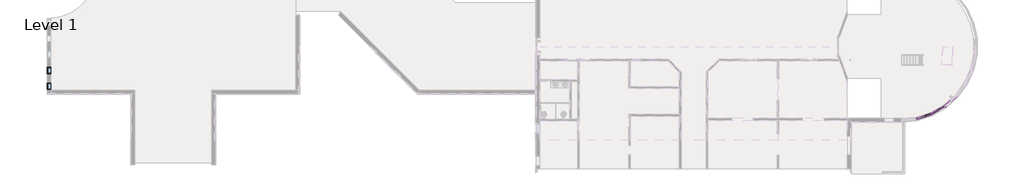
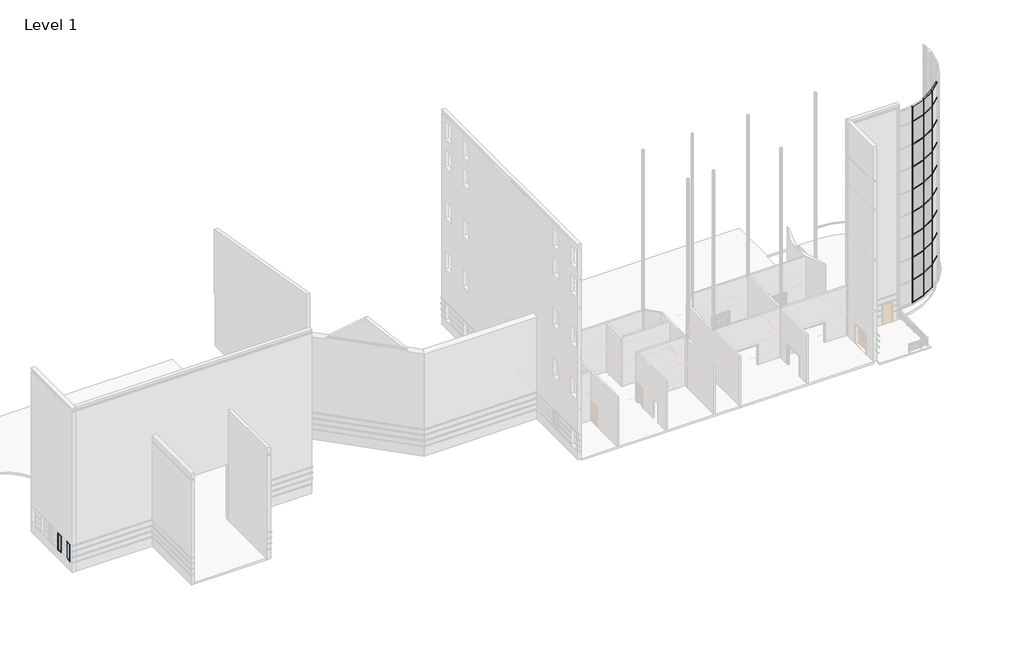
# One storey, part 4 of 16: 50 members, 18 plates, 2 windows.
"""IFC4 building model written with IfcOpenShell, lengths in millimetres."""

import ifcopenshell
import ifcopenshell.guid

model = None  # the IFC model being written
_history = None  # IfcOwnerHistory: only IFC2X3 demands one
_inside = {}  # id of a spatial element -> (the spatial element, [elements in it])
_under = {}  # id of a project, library or spatial element -> (it, [spatial elements below it])
_declared = {}  # id of a project -> (the project, [libraries it declares])
_typed = {}  # id of a type object -> (the type object, [elements of that type])
_made_of = {}  # id of a material, layer set ... -> (it, [elements and type objects made of it])


def new_model(schema):
    """Start an empty IFC model of exactly this schema.

    Asked for "IFC4X3", IfcOpenShell would pick the latest addendum, in which some entities
    have other attributes; the version numbers below select the first issue.
    IFC2X3 requires an IfcOwnerHistory on every rooted entity: one is made here for all.
    """
    global model, _history
    if schema == "IFC4X3":
        model = ifcopenshell.file(schema_version=(4, 3, 0, 0))
    else:
        model = ifcopenshell.file(schema=schema)
    _inside.clear()
    _under.clear()
    _declared.clear()
    _typed.clear()
    _made_of.clear()
    _history = None
    if model.schema == "IFC2X3":
        org = make("IfcOrganization", Name="unknown")
        user = make(
            "IfcPersonAndOrganization",
            ThePerson=make("IfcPerson", FamilyName="unknown"),
            TheOrganization=org,
        )
        app = make(
            "IfcApplication",
            ApplicationDeveloper=org,
            Version="unknown",
            ApplicationFullName="unknown",
            ApplicationIdentifier="unknown",
        )
        _history = make(
            "IfcOwnerHistory",
            OwningUser=user,
            OwningApplication=app,
            ChangeAction="ADDED",
            CreationDate=0,
        )
    return model


def make(cls, **values):
    """One entity of the class cls with the attributes given. An attribute that is None is left unset."""
    return model.create_entity(
        cls, **{name: value for name, value in values.items() if value is not None}
    )


def rooted(cls, **values):
    """An entity with a GlobalId (a new one), such as an element, a storey or a relation."""
    return make(cls, GlobalId=ifcopenshell.guid.new(), OwnerHistory=_history, **values)


def si_unit(unit_type, name, prefix=None):
    """IfcSIUnit, for example si_unit("LENGTHUNIT", "METRE", prefix="MILLI")."""
    return make("IfcSIUnit", UnitType=unit_type, Prefix=prefix, Name=name)


def assignment(units):
    """IfcUnitAssignment: the units of a project."""
    return None if units is None else make("IfcUnitAssignment", Units=units)


def point(xyz):
    """IfcCartesianPoint."""
    return None if xyz is None else make("IfcCartesianPoint", Coordinates=xyz)


def direction(xyz):
    """IfcDirection."""
    return None if xyz is None else make("IfcDirection", DirectionRatios=xyz)


def frame(location, z_axis=None, x_axis=None):
    """IfcAxis2Placement3D, a coordinate frame: its origin and axes. An axis left out is left unset."""
    return make(
        "IfcAxis2Placement3D",
        Location=point(location),
        Axis=direction(z_axis),
        RefDirection=direction(x_axis),
    )


def origin():
    """The frame at (0, 0, 0) with its axes left unset."""
    return frame((0.0, 0.0, 0.0))


def origin_with_axes():
    """The frame at (0, 0, 0) with the z axis (0, 0, 1) and the x axis (1, 0, 0) written out."""
    return frame((0.0, 0.0, 0.0), z_axis=(0.0, 0.0, 1.0), x_axis=(1.0, 0.0, 0.0))


def place(relative_to, where):
    """IfcLocalPlacement: puts the frame where relative to a parent placement (None: the world)."""
    return make(
        "IfcLocalPlacement", PlacementRelTo=relative_to, RelativePlacement=where
    )


def context(
    kind, dimensions, precision=None, world=None, true_north=None, identifier=None
):
    """IfcGeometricRepresentationContext, for example the 3D "Model" context."""
    return make(
        "IfcGeometricRepresentationContext",
        ContextIdentifier=identifier,
        ContextType=kind,
        CoordinateSpaceDimension=dimensions,
        Precision=precision,
        WorldCoordinateSystem=world,
        TrueNorth=true_north,
    )


def project(units=None, contexts=None):
    """IfcProject with its units and contexts."""
    return rooted(
        "IfcProject",
        Name="project",
        RepresentationContexts=contexts,
        UnitsInContext=assignment(units),
    )


def spatial(cls, under=None, at=None, **own):
    """A site, building, storey or space (cls), placed at a placement, below another one or the project."""
    s = rooted(cls, ObjectPlacement=at, **own)
    if under is not None:
        _under.setdefault(under.id(), (under, []))[1].append(s)
    return s


def polyline(points):
    """IfcPolyline through the points."""
    return make("IfcPolyline", Points=[point(p) for p in points])


def outline(outer, holes=None, kind="AREA"):
    """IfcArbitraryClosedProfileDef: a profile drawn as a closed curve; with holes, ...WithVoids."""
    if holes is None:
        return make("IfcArbitraryClosedProfileDef", ProfileType=kind, OuterCurve=outer)
    return make(
        "IfcArbitraryProfileDefWithVoids",
        ProfileType=kind,
        OuterCurve=outer,
        InnerCurves=holes,
    )


def extrude(swept, where, along, depth):
    """IfcExtrudedAreaSolid: the profile swept, set in the frame where, extruded along a direction by depth."""
    return make(
        "IfcExtrudedAreaSolid",
        SweptArea=swept,
        Position=where,
        ExtrudedDirection=direction(along),
        Depth=depth,
    )


def faces_of(points, faces, orient=None, outer=None):
    """IfcFace entities. A face is a list of loops; a loop is a list of indices into points, from 0.

    orient and outer hold one flag for each loop. By default every Orientation is true, the
    first loop of a face is its IfcFaceOuterBound and the others are IfcFaceBound.
    """
    made = []
    for i, loops in enumerate(faces):
        bounds = []
        for j, loop in enumerate(loops):
            is_outer = j == 0 if outer is None else outer[i][j]
            bounds.append(
                make(
                    "IfcFaceOuterBound" if is_outer else "IfcFaceBound",
                    Bound=make("IfcPolyLoop", Polygon=[points[k] for k in loop]),
                    Orientation=True if orient is None else orient[i][j],
                )
            )
        made.append(make("IfcFace", Bounds=bounds))
    return made


def faceted_brep(points, faces, orient=None, outer=None, voids=None):
    """IfcFacetedBrep: a solid bounded by flat faces; with voids (closed shells), ...WithVoids."""
    shared = [point(p) for p in points]
    hull = make("IfcClosedShell", CfsFaces=faces_of(shared, faces, orient, outer))
    if voids is None:
        return make("IfcFacetedBrep", Outer=hull)
    return make(
        "IfcFacetedBrepWithVoids",
        Outer=hull,
        Voids=[
            make(cls, CfsFaces=faces_of(shared, fs, o, b)) for cls, fs, o, b in voids
        ],
    )


def shape(context_of_items, identifier, shape_type, items):
    """IfcShapeRepresentation: the items that make up one representation, for example the "Body"."""
    return make(
        "IfcShapeRepresentation",
        ContextOfItems=context_of_items,
        RepresentationIdentifier=identifier,
        RepresentationType=shape_type,
        Items=items,
    )


def source(mapping_origin, context_of_items, identifier, shape_type, items):
    """IfcRepresentationMap: a shape defined once, which mapped items show again and again."""
    return make(
        "IfcRepresentationMap",
        MappingOrigin=mapping_origin,
        MappedRepresentation=shape(context_of_items, identifier, shape_type, items),
    )


def transform(
    local_origin,
    x_axis=None,
    y_axis=None,
    z_axis=None,
    scale=None,
    scale2=None,
    scale3=None,
    uniform=True,
):
    """IfcCartesianTransformationOperator3D, or its non-uniform kind. x_axis, y_axis, z_axis: its Axis1, 2, 3."""
    if uniform:
        return make(
            "IfcCartesianTransformationOperator3D",
            Axis1=direction(x_axis),
            Axis2=direction(y_axis),
            LocalOrigin=point(local_origin),
            Scale=scale,
            Axis3=direction(z_axis),
        )
    return make(
        "IfcCartesianTransformationOperator3DnonUniform",
        Axis1=direction(x_axis),
        Axis2=direction(y_axis),
        LocalOrigin=point(local_origin),
        Scale=scale,
        Axis3=direction(z_axis),
        Scale2=scale2,
        Scale3=scale3,
    )


def mapped(mapping_source, mapping_target):
    """IfcMappedItem: shows the shape of a source again, moved by a transform."""
    return make(
        "IfcMappedItem", MappingSource=mapping_source, MappingTarget=mapping_target
    )


def made_of(thing, what):
    """Note that an element or type object is made of a material, layer set ...; save() writes the relation."""
    if what is not None:
        _made_of.setdefault(what.id(), (what, []))[1].append(thing)
    return thing


def element(
    cls,
    number,
    at=None,
    inside=None,
    cuts=None,
    type_object=None,
    material=None,
    context=None,
    identifier="Body",
    shape_type=None,
    held_by="IfcProductDefinitionShape",
    body=None,
    shapes=None,
    **own,
):
    """One element of the class cls, such as IfcWall. Its Tag is "e" and its number.

    at: its placement. inside: the storey or other place that contains it. cuts: it is an
    opening in that element (IfcRelVoidsElement). A single representation is given by context,
    identifier, shape_type and body (its items); several are given by shapes. held_by: the class
    of the entity that holds the representations. save() writes the other relations.
    """
    e = rooted(cls, Tag="e%d" % number, ObjectPlacement=at, **own)
    if body is not None:
        shapes = [shape(context, identifier, shape_type, body)]
    if shapes is not None:
        e.Representation = make(held_by, Representations=shapes)
    if inside is not None:
        _inside.setdefault(inside.id(), (inside, []))[1].append(e)
    if cuts is not None:
        rooted(
            "IfcRelVoidsElement", RelatingBuildingElement=cuts, RelatedOpeningElement=e
        )
    if type_object is not None:
        _typed.setdefault(type_object.id(), (type_object, []))[1].append(e)
    return made_of(e, material)


def aggregate(whole, parts):
    """IfcRelAggregates: a whole, such as a stair, and the parts it consists of."""
    return rooted("IfcRelAggregates", RelatingObject=whole, RelatedObjects=parts)


def save(model, path):
    """Write the relations noted so far, then the file.

    IfcRelAggregates (storeys below a building ...), IfcRelContainedInSpatialStructure (elements
    in a storey), IfcRelDefinesByType, IfcRelAssociatesMaterial and IfcRelDeclares: one each for
    every whole, place, type object, material and project.
    """
    for whole, parts in _under.values():
        aggregate(whole, parts)
    for where, things in _inside.values():
        rooted(
            "IfcRelContainedInSpatialStructure",
            RelatedElements=things,
            RelatingStructure=where,
        )
    for kind, things in _typed.values():
        rooted("IfcRelDefinesByType", RelatedObjects=things, RelatingType=kind)
    for what, things in _made_of.values():
        rooted("IfcRelAssociatesMaterial", RelatedObjects=things, RelatingMaterial=what)
    for by, libraries in _declared.values():
        rooted("IfcRelDeclares", RelatingContext=by, RelatedDefinitions=libraries)
    model.write(path)


def member_45463520(model_context):
    return source(origin(), model_context, "Body", "SweptSolid", [
        extrude(outline(polyline([(-63.5, 6.4992311), (59.8333616, -6.4636276), (63.5, 28.422106), (63.5, -1457.3768913), (59.8333616, -1422.4911577), (-63.5, -1435.4540164), (-63.5, 6.4992311)])), frame((-63.5, 0.0, 0.0), z_axis=(1.0, 0.0, 0.0), x_axis=(0.0, 1.0, 0.0)), (0.0, 0.0, 1.0), 63.5),
    ])


def member_1666ebf7(model_context):
    return source(origin(), model_context, "Body", "Brep", [
        faceted_brep([(-31.75, 63.5, 28.422106), (0.0, 63.5, 28.422106), (31.75, 63.5, 28.422106), (31.75, 63.5, -1457.3768913), (0.0, 63.5, -1457.3768913), (-31.75, 63.5, -1457.3768913), (-31.75, -63.5, 6.4992311), (-31.75, 59.8333616, -6.4636276), (-31.75, 59.8333616, -1422.4911577), (-31.75, -63.5, -1435.4540164), (31.75, -63.5, 6.4992311), (0.0, -63.5, 6.4992311), (0.0, -63.5, -1435.4540164), (31.75, -63.5, -1435.4540164), (31.75, 59.8333616, -6.4636276), (31.75, 59.8333616, -1422.4911577), (0.0, 59.8333616, -6.4636276), (0.0, 59.8333616, -1422.4911577)], [[[0, 1, 2, 3, 4, 5]], [[6, 7, 0, 5, 8, 9]], [[10, 11, 6, 9, 12, 13]], [[2, 14, 10, 13, 15, 3]], [[2, 1, 16, 14]], [[1, 0, 7, 16]], [[7, 6, 11, 16]], [[11, 10, 14, 16]], [[3, 15, 17, 4]], [[15, 13, 12, 17]], [[12, 9, 8, 17]], [[8, 5, 4, 17]]]),
    ])


def member_f0fea5a5(model_context):
    return source(origin(), model_context, "Body", "SweptSolid", [
        extrude(outline(polyline([(31.75, 63.5), (31.75, -63.5), (-31.75, -63.5), (-31.75, 63.5), (31.75, 63.5)])), frame((0.0, 0.0, -2438.4), z_axis=(0.0, 0.0, 1.0), x_axis=(1.0, 0.0, 0.0)), (0.0, 0.0, 1.0), 2438.4),
    ])


def member_788d4f16(model_context):
    return source(origin(), model_context, "Body", "SweptSolid", [
        extrude(outline(polyline([(31.75, 63.5), (31.75, -63.5), (-31.75, -63.5), (-31.75, 63.5), (31.75, 63.5)])), frame((0.0, 0.0, -1651.0), z_axis=(0.0, 0.0, 1.0), x_axis=(1.0, 0.0, 0.0)), (0.0, 0.0, 1.0), 1651.0),
    ])


def system_panel_glazed_294e175a(model_context):
    return source(origin(), model_context, "Body", "SweptSolid", [
        extrude(outline(polyline([(714.4773927, 19.05), (-714.4773927, 19.05), (-714.4773927, 44.45), (714.4773927, 44.45), (714.4773927, 19.05)])), origin_with_axes(), (0.0, 0.0, 1.0), 2343.15),
    ])


def system_panel_glazed_36605c35(model_context):
    return source(origin(), model_context, "Body", "SweptSolid", [
        extrude(outline(polyline([(714.4773927, 19.05), (-714.4773927, 19.05), (-714.4773927, 44.45), (714.4773927, 44.45), (714.4773927, 19.05)])), origin_with_axes(), (0.0, 0.0, 1.0), 2374.9),
    ])


def system_panel_glazed_41a16be2(model_context):
    return source(origin(), model_context, "Body", "SweptSolid", [
        extrude(outline(polyline([(714.4773927, 19.05), (-714.4773927, 19.05), (-714.4773927, 44.45), (714.4773927, 44.45), (714.4773927, 19.05)])), origin_with_axes(), (0.0, 0.0, 1.0), 1555.75),
    ])


def window_ff99b6fa(model_context):
    return source(origin(), model_context, "Body", "SweptSolid", [
        extrude(outline(polyline([(203.2, -128.5875), (203.2, -141.2875), (-279.4, -141.2875), (-279.4, -128.5875), (203.2, -128.5875)])), frame((0.0, 0.0, 368.3), z_axis=(0.0, 0.0, 1.0), x_axis=(1.0, 0.0, 0.0)), (0.0, 0.0, 1.0), 1701.8),
        extrude(outline(polyline([(2114.55, -323.85), (323.85, -323.85), (323.85, 247.65), (2114.55, 247.65), (2114.55, -323.85)]), holes=[polyline([(2070.1, -279.4), (2070.1, 203.2), (368.3, 203.2), (368.3, -279.4), (2070.1, -279.4)])]), frame((0.0, -157.1625, 0.0), z_axis=(0.0, 1.0, 0.0), x_axis=(0.0, 0.0, 1.0)), (0.0, 0.0, 1.0), 44.45),
        extrude(outline(polyline([(2133.6, -342.9), (304.8, -342.9), (304.8, 266.7), (2133.6, 266.7), (2133.6, -342.9)]), holes=[polyline([(2101.85, -311.15), (2101.85, 234.95), (336.55, 234.95), (336.55, -311.15), (2101.85, -311.15)])]), frame((0.0, -112.7125, 0.0), z_axis=(0.0, 1.0, 0.0), x_axis=(0.0, 0.0, 1.0)), (0.0, 0.0, 1.0), 288.925),
        extrude(outline(polyline([(2133.6, 266.7), (2133.6, -342.9), (304.8, -342.9), (304.8, 266.7), (2133.6, 266.7)]), holes=[polyline([(2114.55, 247.65), (323.85, 247.65), (323.85, -323.85), (2114.55, -323.85), (2114.55, 247.65)])]), frame((0.0, -176.2125, 0.0), z_axis=(0.0, 1.0, 0.0), x_axis=(0.0, 0.0, 1.0)), (0.0, 0.0, 1.0), 63.5),
    ])


model = new_model("IFC4")

# Units and contexts
model_context = context("Model", 3, world=origin())
ifc_project = project(units=[si_unit("LENGTHUNIT", "METRE", prefix="MILLI")], contexts=[model_context])

# Site, building, storey
site = spatial("IfcSite", under=ifc_project)
building = spatial("IfcBuilding", under=site)
storey = spatial("IfcBuildingStorey", under=building, Name="Level 1", Elevation=0.0)

# Members
placement = place(None, origin())
member_shape = member_45463520(model_context)
element("IfcMember", 1, ObjectType="Rectangular Mullion : 2.5\" x 5\" rectangular", at=placement, inside=storey, context=model_context, shape_type="MappedRepresentation", body=[
    mapped(member_shape, transform((19319.048662, -325.2186025, 22250.4), x_axis=(0.0, 0.0, 1.0), y_axis=(-0.6691306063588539, 0.7431448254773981, 0.0), z_axis=(-0.7431448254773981, -0.6691306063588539, 0.0))),
])
element("IfcMember", 2, ObjectType="Rectangular Mullion : 2.5\" x 5\" rectangular", at=placement, inside=storey, context=model_context, shape_type="MappedRepresentation", body=[
    mapped(member_shape, transform((18030.4463623, -1076.8158919, 22250.4), x_axis=(0.0, 0.0, 1.0), y_axis=(-0.49999999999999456, 0.8660254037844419, 0.0), z_axis=(-0.8660254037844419, -0.49999999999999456, 0.0))),
])
element("IfcMember", 3, ObjectType="Rectangular Mullion : 2.5\" x 5\" rectangular", at=placement, inside=storey, context=model_context, shape_type="MappedRepresentation", body=[
    mapped(member_shape, transform((19267.9575073, -362.3384992, 1092.2), x_axis=(0.0, 0.0, -1.0), y_axis=(-0.49999999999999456, 0.8660254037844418, 0.0), z_axis=(0.8660254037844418, 0.49999999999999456, 0.0))),
])
element("IfcMember", 4, ObjectType="Rectangular Mullion : 2.5\" x 5\" rectangular", at=placement, inside=storey, context=model_context, shape_type="MappedRepresentation", body=[
    mapped(member_shape, transform((17972.7540113, -1102.5021815, 1092.2), x_axis=(0.0, 0.0, -1.0), y_axis=(-0.309016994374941, 0.9510565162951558, 0.0), z_axis=(0.9510565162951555, 0.30901699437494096, 0.0))),
])
member_2_shape = member_1666ebf7(model_context)
element("IfcMember", 5, ObjectType="Rectangular Mullion : 2.5\" x 5\" rectangular", at=placement, inside=storey, context=model_context, shape_type="MappedRepresentation", body=[
    mapped(member_2_shape, transform((19319.048662, -325.2186025, 3530.6), x_axis=(0.0, 0.0, 1.0), y_axis=(-0.669130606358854, 0.7431448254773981, 0.0), z_axis=(-0.743144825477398, -0.6691306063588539, 0.0))),
])
element("IfcMember", 6, ObjectType="Rectangular Mullion : 2.5\" x 5\" rectangular", at=placement, inside=storey, context=model_context, shape_type="MappedRepresentation", body=[
    mapped(member_2_shape, transform((18030.4463623, -1076.8158919, 3530.6), x_axis=(0.0, 0.0, 1.0), y_axis=(-0.4999999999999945, 0.8660254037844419, 0.0), z_axis=(-0.8660254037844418, -0.49999999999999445, 0.0))),
])
element("IfcMember", 7, ObjectType="Rectangular Mullion : 2.5\" x 5\" rectangular", at=placement, inside=storey, context=model_context, shape_type="MappedRepresentation", body=[
    mapped(member_2_shape, transform((19319.048662, -325.2186025, 5969.0), x_axis=(0.0, 0.0, 1.0), y_axis=(-0.669130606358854, 0.7431448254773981, 0.0), z_axis=(-0.743144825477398, -0.6691306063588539, 0.0))),
])
element("IfcMember", 8, ObjectType="Rectangular Mullion : 2.5\" x 5\" rectangular", at=placement, inside=storey, context=model_context, shape_type="MappedRepresentation", body=[
    mapped(member_2_shape, transform((18030.4463623, -1076.8158919, 5969.0), x_axis=(0.0, 0.0, 1.0), y_axis=(-0.49999999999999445, 0.8660254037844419, 0.0), z_axis=(-0.8660254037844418, -0.4999999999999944, 0.0))),
])
element("IfcMember", 9, ObjectType="Rectangular Mullion : 2.5\" x 5\" rectangular", at=placement, inside=storey, context=model_context, shape_type="MappedRepresentation", body=[
    mapped(member_2_shape, transform((19319.048662, -325.2186025, 8407.4), x_axis=(0.0, 0.0, 1.0), y_axis=(-0.669130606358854, 0.7431448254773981, 0.0), z_axis=(-0.743144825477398, -0.6691306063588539, 0.0))),
])
element("IfcMember", 10, ObjectType="Rectangular Mullion : 2.5\" x 5\" rectangular", at=placement, inside=storey, context=model_context, shape_type="MappedRepresentation", body=[
    mapped(member_2_shape, transform((18030.4463623, -1076.8158919, 8407.4), x_axis=(0.0, 0.0, 1.0), y_axis=(-0.49999999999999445, 0.8660254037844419, 0.0), z_axis=(-0.8660254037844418, -0.4999999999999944, 0.0))),
])
element("IfcMember", 11, ObjectType="Rectangular Mullion : 2.5\" x 5\" rectangular", at=placement, inside=storey, context=model_context, shape_type="MappedRepresentation", body=[
    mapped(member_2_shape, transform((19319.048662, -325.2186025, 10845.8), x_axis=(0.0, 0.0, 1.0), y_axis=(-0.669130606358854, 0.7431448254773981, 0.0), z_axis=(-0.743144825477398, -0.6691306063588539, 0.0))),
])
element("IfcMember", 12, ObjectType="Rectangular Mullion : 2.5\" x 5\" rectangular", at=placement, inside=storey, context=model_context, shape_type="MappedRepresentation", body=[
    mapped(member_2_shape, transform((18030.4463623, -1076.8158919, 10845.8), x_axis=(0.0, 0.0, 1.0), y_axis=(-0.49999999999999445, 0.8660254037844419, 0.0), z_axis=(-0.8660254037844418, -0.4999999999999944, 0.0))),
])
element("IfcMember", 13, ObjectType="Rectangular Mullion : 2.5\" x 5\" rectangular", at=placement, inside=storey, context=model_context, shape_type="MappedRepresentation", body=[
    mapped(member_2_shape, transform((19319.048662, -325.2186025, 13284.2), x_axis=(0.0, 0.0, 1.0), y_axis=(-0.669130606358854, 0.7431448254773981, 0.0), z_axis=(-0.743144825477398, -0.6691306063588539, 0.0))),
])
element("IfcMember", 14, ObjectType="Rectangular Mullion : 2.5\" x 5\" rectangular", at=placement, inside=storey, context=model_context, shape_type="MappedRepresentation", body=[
    mapped(member_2_shape, transform((18030.4463623, -1076.8158919, 13284.2), x_axis=(0.0, 0.0, 1.0), y_axis=(-0.49999999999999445, 0.8660254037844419, 0.0), z_axis=(-0.8660254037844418, -0.4999999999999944, 0.0))),
])
element("IfcMember", 15, ObjectType="Rectangular Mullion : 2.5\" x 5\" rectangular", at=placement, inside=storey, context=model_context, shape_type="MappedRepresentation", body=[
    mapped(member_2_shape, transform((19319.048662, -325.2186025, 15722.6), x_axis=(0.0, 0.0, 1.0), y_axis=(-0.669130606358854, 0.7431448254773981, 0.0), z_axis=(-0.743144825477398, -0.6691306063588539, 0.0))),
])
element("IfcMember", 16, ObjectType="Rectangular Mullion : 2.5\" x 5\" rectangular", at=placement, inside=storey, context=model_context, shape_type="MappedRepresentation", body=[
    mapped(member_2_shape, transform((18030.4463623, -1076.8158919, 15722.6), x_axis=(0.0, 0.0, 1.0), y_axis=(-0.49999999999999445, 0.8660254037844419, 0.0), z_axis=(-0.8660254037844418, -0.4999999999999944, 0.0))),
])
element("IfcMember", 17, ObjectType="Rectangular Mullion : 2.5\" x 5\" rectangular", at=placement, inside=storey, context=model_context, shape_type="MappedRepresentation", body=[
    mapped(member_2_shape, transform((16613.7372513, -1544.0734943, 15722.6), x_axis=(0.0, 0.0, 1.0), y_axis=(-0.30901699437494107, 0.9510565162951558, 0.0), z_axis=(-0.9510565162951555, -0.309016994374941, 0.0))),
])
element("IfcMember", 18, ObjectType="Rectangular Mullion : 2.5\" x 5\" rectangular", at=placement, inside=storey, context=model_context, shape_type="MappedRepresentation", body=[
    mapped(member_2_shape, transform((19319.048662, -325.2186025, 18161.0), x_axis=(0.0, 0.0, 1.0), y_axis=(-0.669130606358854, 0.7431448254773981, 0.0), z_axis=(-0.743144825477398, -0.6691306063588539, 0.0))),
])
element("IfcMember", 19, ObjectType="Rectangular Mullion : 2.5\" x 5\" rectangular", at=placement, inside=storey, context=model_context, shape_type="MappedRepresentation", body=[
    mapped(member_2_shape, transform((18030.4463623, -1076.8158919, 18161.0), x_axis=(0.0, 0.0, 1.0), y_axis=(-0.49999999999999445, 0.8660254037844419, 0.0), z_axis=(-0.8660254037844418, -0.4999999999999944, 0.0))),
])
element("IfcMember", 20, ObjectType="Rectangular Mullion : 2.5\" x 5\" rectangular", at=placement, inside=storey, context=model_context, shape_type="MappedRepresentation", body=[
    mapped(member_2_shape, transform((16613.7372513, -1544.0734943, 18161.0), x_axis=(0.0, 0.0, 1.0), y_axis=(-0.30901699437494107, 0.9510565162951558, 0.0), z_axis=(-0.9510565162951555, -0.309016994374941, 0.0))),
])
element("IfcMember", 21, ObjectType="Rectangular Mullion : 2.5\" x 5\" rectangular", at=placement, inside=storey, context=model_context, shape_type="MappedRepresentation", body=[
    mapped(member_2_shape, transform((19319.048662, -325.2186025, 20599.4), x_axis=(0.0, 0.0, 1.0), y_axis=(-0.669130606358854, 0.7431448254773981, 0.0), z_axis=(-0.743144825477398, -0.6691306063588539, 0.0))),
])
element("IfcMember", 22, ObjectType="Rectangular Mullion : 2.5\" x 5\" rectangular", at=placement, inside=storey, context=model_context, shape_type="MappedRepresentation", body=[
    mapped(member_2_shape, transform((18030.4463623, -1076.8158919, 20599.4), x_axis=(0.0, 0.0, 1.0), y_axis=(-0.4999999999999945, 0.8660254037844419, 0.0), z_axis=(-0.8660254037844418, -0.49999999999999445, 0.0))),
])
element("IfcMember", 23, ObjectType="Rectangular Mullion : 2.5\" x 5\" rectangular", at=placement, inside=storey, context=model_context, shape_type="MappedRepresentation", body=[
    mapped(member_2_shape, transform((16613.7372513, -1544.0734943, 20599.4), x_axis=(0.0, 0.0, 1.0), y_axis=(-0.30901699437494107, 0.9510565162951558, 0.0), z_axis=(-0.9510565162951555, -0.309016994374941, 0.0))),
])
member_3_shape = member_f0fea5a5(model_context)
element("IfcMember", 24, ObjectType="Rectangular Mullion : 2.5\" x 5\" rectangular", at=placement, inside=storey, context=model_context, shape_type="MappedRepresentation", body=[
    mapped(member_3_shape, transform((19295.4538138, -346.4634992, 1092.2), x_axis=(-0.8090169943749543, -0.5877852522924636, 0.0), y_axis=(-0.5877852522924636, 0.8090169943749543, 0.0), z_axis=(0.0, 0.0, -1.0))),
])
element("IfcMember", 25, ObjectType="Rectangular Mullion : 2.5\" x 5\" rectangular", at=placement, inside=storey, context=model_context, shape_type="MappedRepresentation", body=[
    mapped(member_3_shape, transform((18002.9500557, -1092.6908919, 1092.2), x_axis=(-0.9135454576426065, -0.4067366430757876, 0.0), y_axis=(-0.4067366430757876, 0.9135454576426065, 0.0), z_axis=(0.0, 0.0, -1.0))),
])
element("IfcMember", 26, ObjectType="Rectangular Mullion : 2.5\" x 5\" rectangular", at=placement, inside=storey, context=model_context, shape_type="MappedRepresentation", body=[
    mapped(member_3_shape, transform((16583.5412069, -1553.8847839, 1092.2), x_axis=(-0.9781476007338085, -0.20791169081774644, 0.0), y_axis=(-0.20791169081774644, 0.9781476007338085, 0.0), z_axis=(0.0, 0.0, -1.0))),
])
element("IfcMember", 27, ObjectType="Rectangular Mullion : 2.5\" x 5\" rectangular", at=placement, inside=storey, context=model_context, shape_type="MappedRepresentation", body=[
    mapped(member_3_shape, transform((19295.4538138, -346.4634992, 3530.6), x_axis=(-0.8090169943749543, -0.5877852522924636, 0.0), y_axis=(-0.5877852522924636, 0.8090169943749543, 0.0), z_axis=(0.0, 0.0, -1.0))),
])
element("IfcMember", 28, ObjectType="Rectangular Mullion : 2.5\" x 5\" rectangular", at=placement, inside=storey, context=model_context, shape_type="MappedRepresentation", body=[
    mapped(member_3_shape, transform((18002.9500557, -1092.6908919, 3530.6), x_axis=(-0.9135454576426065, -0.4067366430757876, 0.0), y_axis=(-0.4067366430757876, 0.9135454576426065, 0.0), z_axis=(0.0, 0.0, -1.0))),
])
element("IfcMember", 29, ObjectType="Rectangular Mullion : 2.5\" x 5\" rectangular", at=placement, inside=storey, context=model_context, shape_type="MappedRepresentation", body=[
    mapped(member_3_shape, transform((16583.5412069, -1553.8847839, 3530.6), x_axis=(-0.9781476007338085, -0.20791169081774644, 0.0), y_axis=(-0.20791169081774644, 0.9781476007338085, 0.0), z_axis=(0.0, 0.0, -1.0))),
])
element("IfcMember", 30, ObjectType="Rectangular Mullion : 2.5\" x 5\" rectangular", at=placement, inside=storey, context=model_context, shape_type="MappedRepresentation", body=[
    mapped(member_3_shape, transform((19295.4538138, -346.4634992, 5969.0), x_axis=(-0.8090169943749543, -0.5877852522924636, 0.0), y_axis=(-0.5877852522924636, 0.8090169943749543, 0.0), z_axis=(0.0, 0.0, -1.0))),
])
element("IfcMember", 31, ObjectType="Rectangular Mullion : 2.5\" x 5\" rectangular", at=placement, inside=storey, context=model_context, shape_type="MappedRepresentation", body=[
    mapped(member_3_shape, transform((18002.9500557, -1092.6908919, 5969.0), x_axis=(-0.9135454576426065, -0.4067366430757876, 0.0), y_axis=(-0.4067366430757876, 0.9135454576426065, 0.0), z_axis=(0.0, 0.0, -1.0))),
])
element("IfcMember", 32, ObjectType="Rectangular Mullion : 2.5\" x 5\" rectangular", at=placement, inside=storey, context=model_context, shape_type="MappedRepresentation", body=[
    mapped(member_3_shape, transform((16583.5412069, -1553.8847839, 5969.0), x_axis=(-0.9781476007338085, -0.20791169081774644, 0.0), y_axis=(-0.20791169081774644, 0.9781476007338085, 0.0), z_axis=(0.0, 0.0, -1.0))),
])
element("IfcMember", 33, ObjectType="Rectangular Mullion : 2.5\" x 5\" rectangular", at=placement, inside=storey, context=model_context, shape_type="MappedRepresentation", body=[
    mapped(member_3_shape, transform((19295.4538138, -346.4634992, 8407.4), x_axis=(-0.8090169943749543, -0.5877852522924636, 0.0), y_axis=(-0.5877852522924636, 0.8090169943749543, 0.0), z_axis=(0.0, 0.0, -1.0))),
])
element("IfcMember", 34, ObjectType="Rectangular Mullion : 2.5\" x 5\" rectangular", at=placement, inside=storey, context=model_context, shape_type="MappedRepresentation", body=[
    mapped(member_3_shape, transform((18002.9500557, -1092.6908919, 8407.4), x_axis=(-0.9135454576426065, -0.4067366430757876, 0.0), y_axis=(-0.4067366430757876, 0.9135454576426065, 0.0), z_axis=(0.0, 0.0, -1.0))),
])
element("IfcMember", 35, ObjectType="Rectangular Mullion : 2.5\" x 5\" rectangular", at=placement, inside=storey, context=model_context, shape_type="MappedRepresentation", body=[
    mapped(member_3_shape, transform((16583.5412069, -1553.8847839, 8407.4), x_axis=(-0.9781476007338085, -0.20791169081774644, 0.0), y_axis=(-0.20791169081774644, 0.9781476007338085, 0.0), z_axis=(0.0, 0.0, -1.0))),
])
element("IfcMember", 36, ObjectType="Rectangular Mullion : 2.5\" x 5\" rectangular", at=placement, inside=storey, context=model_context, shape_type="MappedRepresentation", body=[
    mapped(member_3_shape, transform((19295.4538138, -346.4634992, 10845.8), x_axis=(-0.8090169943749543, -0.5877852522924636, 0.0), y_axis=(-0.5877852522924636, 0.8090169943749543, 0.0), z_axis=(0.0, 0.0, -1.0))),
])
element("IfcMember", 37, ObjectType="Rectangular Mullion : 2.5\" x 5\" rectangular", at=placement, inside=storey, context=model_context, shape_type="MappedRepresentation", body=[
    mapped(member_3_shape, transform((18002.9500557, -1092.6908919, 10845.8), x_axis=(-0.9135454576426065, -0.4067366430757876, 0.0), y_axis=(-0.4067366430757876, 0.9135454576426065, 0.0), z_axis=(0.0, 0.0, -1.0))),
])
element("IfcMember", 38, ObjectType="Rectangular Mullion : 2.5\" x 5\" rectangular", at=placement, inside=storey, context=model_context, shape_type="MappedRepresentation", body=[
    mapped(member_3_shape, transform((16583.5412069, -1553.8847839, 10845.8), x_axis=(-0.9781476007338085, -0.20791169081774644, 0.0), y_axis=(-0.20791169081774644, 0.9781476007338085, 0.0), z_axis=(0.0, 0.0, -1.0))),
])
element("IfcMember", 39, ObjectType="Rectangular Mullion : 2.5\" x 5\" rectangular", at=placement, inside=storey, context=model_context, shape_type="MappedRepresentation", body=[
    mapped(member_3_shape, transform((19295.4538138, -346.4634992, 13284.2), x_axis=(-0.8090169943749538, -0.5877852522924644, 0.0), y_axis=(-0.5877852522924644, 0.8090169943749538, 0.0), z_axis=(0.0, 0.0, -1.0))),
])
element("IfcMember", 40, ObjectType="Rectangular Mullion : 2.5\" x 5\" rectangular", at=placement, inside=storey, context=model_context, shape_type="MappedRepresentation", body=[
    mapped(member_3_shape, transform((18002.9500557, -1092.6908919, 13284.2), x_axis=(-0.9135454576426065, -0.4067366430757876, 0.0), y_axis=(-0.4067366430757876, 0.9135454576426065, 0.0), z_axis=(0.0, 0.0, -1.0))),
])
element("IfcMember", 41, ObjectType="Rectangular Mullion : 2.5\" x 5\" rectangular", at=placement, inside=storey, context=model_context, shape_type="MappedRepresentation", body=[
    mapped(member_3_shape, transform((16583.5412069, -1553.8847839, 13284.2), x_axis=(-0.9781476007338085, -0.20791169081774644, 0.0), y_axis=(-0.20791169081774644, 0.9781476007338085, 0.0), z_axis=(0.0, 0.0, -1.0))),
])
element("IfcMember", 42, ObjectType="Rectangular Mullion : 2.5\" x 5\" rectangular", at=placement, inside=storey, context=model_context, shape_type="MappedRepresentation", body=[
    mapped(member_3_shape, transform((19295.4538138, -346.4634992, 15722.6), x_axis=(-0.8090169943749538, -0.5877852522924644, 0.0), y_axis=(-0.5877852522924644, 0.8090169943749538, 0.0), z_axis=(0.0, 0.0, -1.0))),
])
element("IfcMember", 43, ObjectType="Rectangular Mullion : 2.5\" x 5\" rectangular", at=placement, inside=storey, context=model_context, shape_type="MappedRepresentation", body=[
    mapped(member_3_shape, transform((18002.9500557, -1092.6908919, 15722.6), x_axis=(-0.9135454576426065, -0.4067366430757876, 0.0), y_axis=(-0.4067366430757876, 0.9135454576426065, 0.0), z_axis=(0.0, 0.0, -1.0))),
])
element("IfcMember", 44, ObjectType="Rectangular Mullion : 2.5\" x 5\" rectangular", at=placement, inside=storey, context=model_context, shape_type="MappedRepresentation", body=[
    mapped(member_3_shape, transform((16583.5412069, -1553.8847839, 15722.6), x_axis=(-0.9781476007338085, -0.20791169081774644, 0.0), y_axis=(-0.20791169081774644, 0.9781476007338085, 0.0), z_axis=(0.0, 0.0, -1.0))),
])
element("IfcMember", 45, ObjectType="Rectangular Mullion : 2.5\" x 5\" rectangular", at=placement, inside=storey, context=model_context, shape_type="MappedRepresentation", body=[
    mapped(member_3_shape, transform((19295.4538138, -346.4634992, 18161.0), x_axis=(-0.8090169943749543, -0.5877852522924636, 0.0), y_axis=(-0.5877852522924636, 0.8090169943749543, 0.0), z_axis=(0.0, 0.0, -1.0))),
])
element("IfcMember", 46, ObjectType="Rectangular Mullion : 2.5\" x 5\" rectangular", at=placement, inside=storey, context=model_context, shape_type="MappedRepresentation", body=[
    mapped(member_3_shape, transform((18002.9500557, -1092.6908919, 18161.0), x_axis=(-0.9135454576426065, -0.4067366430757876, 0.0), y_axis=(-0.4067366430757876, 0.9135454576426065, 0.0), z_axis=(0.0, 0.0, -1.0))),
])
element("IfcMember", 47, ObjectType="Rectangular Mullion : 2.5\" x 5\" rectangular", at=placement, inside=storey, context=model_context, shape_type="MappedRepresentation", body=[
    mapped(member_3_shape, transform((16583.5412069, -1553.8847839, 18161.0), x_axis=(-0.9781476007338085, -0.20791169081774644, 0.0), y_axis=(-0.20791169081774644, 0.9781476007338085, 0.0), z_axis=(0.0, 0.0, -1.0))),
])
member_4_shape = member_788d4f16(model_context)
element("IfcMember", 48, ObjectType="Rectangular Mullion : 2.5\" x 5\" rectangular", at=placement, inside=storey, context=model_context, shape_type="MappedRepresentation", body=[
    mapped(member_4_shape, transform((19295.4538138, -346.4634992, 20599.4), x_axis=(-0.8090169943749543, -0.5877852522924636, 0.0), y_axis=(-0.5877852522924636, 0.8090169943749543, 0.0), z_axis=(0.0, 0.0, -1.0))),
])
element("IfcMember", 49, ObjectType="Rectangular Mullion : 2.5\" x 5\" rectangular", at=placement, inside=storey, context=model_context, shape_type="MappedRepresentation", body=[
    mapped(member_4_shape, transform((18002.9500557, -1092.6908919, 20599.4), x_axis=(-0.9135454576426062, -0.4067366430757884, 0.0), y_axis=(-0.4067366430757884, 0.9135454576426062, 0.0), z_axis=(0.0, 0.0, -1.0))),
])
element("IfcMember", 50, ObjectType="Rectangular Mullion : 2.5\" x 5\" rectangular", at=placement, inside=storey, context=model_context, shape_type="MappedRepresentation", body=[
    mapped(member_4_shape, transform((16583.5412069, -1553.8847839, 20599.4), x_axis=(-0.9781476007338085, -0.20791169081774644, 0.0), y_axis=(-0.20791169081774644, 0.9781476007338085, 0.0), z_axis=(0.0, 0.0, -1.0))),
])

# Plates
system_panel_glazed_shape = system_panel_glazed_294e175a(model_context)
element("IfcPlate", 51, ObjectType="System Panel : Glazed", at=placement, inside=storey, context=model_context, shape_type="MappedRepresentation", body=[
    mapped(system_panel_glazed_shape, transform((18649.2019348, -719.5771956, 1155.7), x_axis=(-0.8660254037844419, -0.49999999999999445, 0.0), y_axis=(0.49999999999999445, -0.8660254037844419, 0.0), z_axis=(0.0, 0.0, 1.0))),
])
element("IfcPlate", 52, ObjectType="System Panel : Glazed", at=placement, inside=storey, context=model_context, shape_type="MappedRepresentation", body=[
    mapped(system_panel_glazed_shape, transform((17293.2456313, -1323.2878379, 1155.7), x_axis=(-0.9510565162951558, -0.309016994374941, 0.0), y_axis=(0.309016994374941, -0.9510565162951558, 0.0), z_axis=(0.0, 0.0, 1.0))),
])
system_panel_glazed_2_shape = system_panel_glazed_36605c35(model_context)
element("IfcPlate", 53, ObjectType="System Panel : Glazed", at=placement, inside=storey, context=model_context, shape_type="MappedRepresentation", body=[
    mapped(system_panel_glazed_2_shape, transform((18649.2019348, -719.5771956, 3562.35), x_axis=(-0.8660254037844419, -0.4999999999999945, 0.0), y_axis=(0.4999999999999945, -0.8660254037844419, 0.0), z_axis=(0.0, 0.0, 1.0))),
])
element("IfcPlate", 54, ObjectType="System Panel : Glazed", at=placement, inside=storey, context=model_context, shape_type="MappedRepresentation", body=[
    mapped(system_panel_glazed_2_shape, transform((17293.2456313, -1323.2878379, 3562.35), x_axis=(-0.9510565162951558, -0.30901699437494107, 0.0), y_axis=(0.30901699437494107, -0.9510565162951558, 0.0), z_axis=(0.0, 0.0, 1.0))),
])
element("IfcPlate", 55, ObjectType="System Panel : Glazed", at=placement, inside=storey, context=model_context, shape_type="MappedRepresentation", body=[
    mapped(system_panel_glazed_2_shape, transform((18649.2019348, -719.5771956, 6000.75), x_axis=(-0.8660254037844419, -0.4999999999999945, 0.0), y_axis=(0.4999999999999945, -0.8660254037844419, 0.0), z_axis=(0.0, 0.0, 1.0))),
])
element("IfcPlate", 56, ObjectType="System Panel : Glazed", at=placement, inside=storey, context=model_context, shape_type="MappedRepresentation", body=[
    mapped(system_panel_glazed_2_shape, transform((17293.2456313, -1323.2878379, 6000.75), x_axis=(-0.9510565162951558, -0.30901699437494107, 0.0), y_axis=(0.30901699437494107, -0.9510565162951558, 0.0), z_axis=(0.0, 0.0, 1.0))),
])
element("IfcPlate", 57, ObjectType="System Panel : Glazed", at=placement, inside=storey, context=model_context, shape_type="MappedRepresentation", body=[
    mapped(system_panel_glazed_2_shape, transform((18649.2019348, -719.5771956, 8439.15), x_axis=(-0.8660254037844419, -0.4999999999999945, 0.0), y_axis=(0.4999999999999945, -0.8660254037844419, 0.0), z_axis=(0.0, 0.0, 1.0))),
])
element("IfcPlate", 58, ObjectType="System Panel : Glazed", at=placement, inside=storey, context=model_context, shape_type="MappedRepresentation", body=[
    mapped(system_panel_glazed_2_shape, transform((17293.2456313, -1323.2878379, 8439.15), x_axis=(-0.9510565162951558, -0.30901699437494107, 0.0), y_axis=(0.30901699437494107, -0.9510565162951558, 0.0), z_axis=(0.0, 0.0, 1.0))),
])
element("IfcPlate", 59, ObjectType="System Panel : Glazed", at=placement, inside=storey, context=model_context, shape_type="MappedRepresentation", body=[
    mapped(system_panel_glazed_2_shape, transform((18649.2019348, -719.5771956, 10877.55), x_axis=(-0.8660254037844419, -0.4999999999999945, 0.0), y_axis=(0.4999999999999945, -0.8660254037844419, 0.0), z_axis=(0.0, 0.0, 1.0))),
])
element("IfcPlate", 60, ObjectType="System Panel : Glazed", at=placement, inside=storey, context=model_context, shape_type="MappedRepresentation", body=[
    mapped(system_panel_glazed_2_shape, transform((17293.2456313, -1323.2878379, 10877.55), x_axis=(-0.9510565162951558, -0.30901699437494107, 0.0), y_axis=(0.30901699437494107, -0.9510565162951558, 0.0), z_axis=(0.0, 0.0, 1.0))),
])
element("IfcPlate", 61, ObjectType="System Panel : Glazed", at=placement, inside=storey, context=model_context, shape_type="MappedRepresentation", body=[
    mapped(system_panel_glazed_2_shape, transform((18649.2019348, -719.5771956, 13315.95), x_axis=(-0.8660254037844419, -0.4999999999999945, 0.0), y_axis=(0.4999999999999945, -0.8660254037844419, 0.0), z_axis=(0.0, 0.0, 1.0))),
])
element("IfcPlate", 62, ObjectType="System Panel : Glazed", at=placement, inside=storey, context=model_context, shape_type="MappedRepresentation", body=[
    mapped(system_panel_glazed_2_shape, transform((17293.2456313, -1323.2878379, 13315.95), x_axis=(-0.9510565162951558, -0.30901699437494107, 0.0), y_axis=(0.30901699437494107, -0.9510565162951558, 0.0), z_axis=(0.0, 0.0, 1.0))),
])
element("IfcPlate", 63, ObjectType="System Panel : Glazed", at=placement, inside=storey, context=model_context, shape_type="MappedRepresentation", body=[
    mapped(system_panel_glazed_2_shape, transform((18649.2019348, -719.5771956, 15754.35), x_axis=(-0.8660254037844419, -0.4999999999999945, 0.0), y_axis=(0.4999999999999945, -0.8660254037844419, 0.0), z_axis=(0.0, 0.0, 1.0))),
])
element("IfcPlate", 64, ObjectType="System Panel : Glazed", at=placement, inside=storey, context=model_context, shape_type="MappedRepresentation", body=[
    mapped(system_panel_glazed_2_shape, transform((17293.2456313, -1323.2878379, 15754.35), x_axis=(-0.9510565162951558, -0.30901699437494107, 0.0), y_axis=(0.30901699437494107, -0.9510565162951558, 0.0), z_axis=(0.0, 0.0, 1.0))),
])
element("IfcPlate", 65, ObjectType="System Panel : Glazed", at=placement, inside=storey, context=model_context, shape_type="MappedRepresentation", body=[
    mapped(system_panel_glazed_2_shape, transform((18649.2019348, -719.5771956, 18192.75), x_axis=(-0.8660254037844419, -0.4999999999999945, 0.0), y_axis=(0.4999999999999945, -0.8660254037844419, 0.0), z_axis=(0.0, 0.0, 1.0))),
])
element("IfcPlate", 66, ObjectType="System Panel : Glazed", at=placement, inside=storey, context=model_context, shape_type="MappedRepresentation", body=[
    mapped(system_panel_glazed_2_shape, transform((17293.2456313, -1323.2878379, 18192.75), x_axis=(-0.9510565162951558, -0.30901699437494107, 0.0), y_axis=(0.30901699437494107, -0.9510565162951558, 0.0), z_axis=(0.0, 0.0, 1.0))),
])
system_panel_glazed_3_shape = system_panel_glazed_41a16be2(model_context)
element("IfcPlate", 67, ObjectType="System Panel : Glazed", at=placement, inside=storey, context=model_context, shape_type="MappedRepresentation", body=[
    mapped(system_panel_glazed_3_shape, transform((18649.2019348, -719.5771956, 20631.15), x_axis=(-0.8660254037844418, -0.4999999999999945, 0.0), y_axis=(0.4999999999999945, -0.8660254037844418, 0.0), z_axis=(0.0, 0.0, 1.0))),
])
element("IfcPlate", 68, ObjectType="System Panel : Glazed", at=placement, inside=storey, context=model_context, shape_type="MappedRepresentation", body=[
    mapped(system_panel_glazed_3_shape, transform((17293.2456313, -1323.2878379, 20631.15), x_axis=(-0.9510565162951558, -0.309016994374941, 0.0), y_axis=(0.309016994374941, -0.9510565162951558, 0.0), z_axis=(0.0, 0.0, 1.0))),
])

# Windows
window_shape = window_ff99b6fa(model_context)
element("IfcWindow", 69, ObjectType="Fixed : 24\" x 72\"", at=placement, inside=storey, context=model_context, shape_type="MappedRepresentation", body=[
    mapped(window_shape, transform((-67398.3148623, 1549.2487109, 609.6), x_axis=(0.0, -1.0, 0.0), y_axis=(1.0, 0.0, 0.0), z_axis=(0.0, 0.0, 1.0))),
])
element("IfcWindow", 70, ObjectType="Fixed : 24\" x 72\"", at=placement, inside=storey, context=model_context, shape_type="MappedRepresentation", body=[
    mapped(window_shape, transform((-67398.3148623, 3078.0112109, 609.6), x_axis=(0.0, -1.0, 0.0), y_axis=(1.0, 0.0, 0.0), z_axis=(0.0, 0.0, 1.0))),
])

save(model, "model.ifc")
